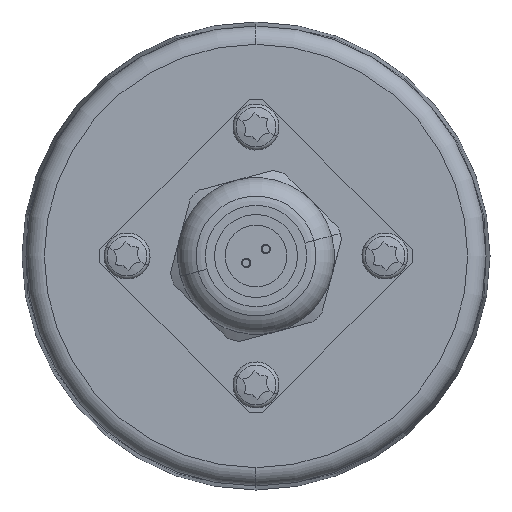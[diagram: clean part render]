
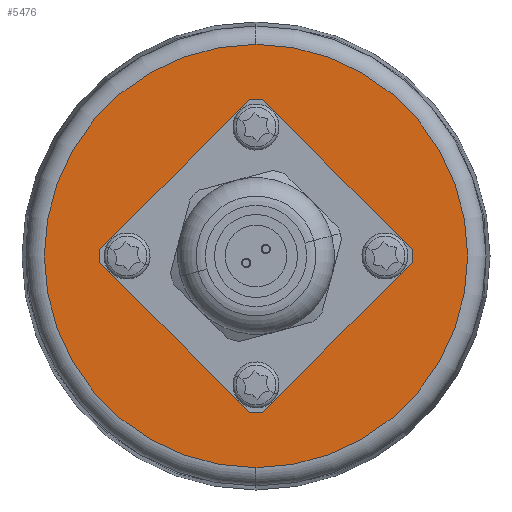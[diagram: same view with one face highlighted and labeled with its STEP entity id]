
A CAD part, left-side view. The second image highlights one B-rep face of the part: STEP entity #5476.
In plain terms, the highlighted planar face has unit normal (-1, 0, 0).
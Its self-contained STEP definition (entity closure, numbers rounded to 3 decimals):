
#26 = CARTESIAN_POINT ( 'NONE',  ( -21., 0., -11.5 ) ) ;
#28 = DIRECTION ( 'NONE',  ( 0., 0., 1. ) ) ;
#29 = DIRECTION ( 'NONE',  ( -1., 0., 0. ) ) ;
#30 = CARTESIAN_POINT ( 'NONE',  ( -21., 0., 0. ) ) ;
#31 = CIRCLE ( 'NONE', #36, 11.5 ) ;
#36 = AXIS2_PLACEMENT_3D ( 'NONE', #30, #29, #28 ) ;
#40 = DIRECTION ( 'NONE',  ( 0., 0., -1. ) ) ;
#41 = DIRECTION ( 'NONE',  ( 1., 0., 0. ) ) ;
#42 = CARTESIAN_POINT ( 'NONE',  ( -21., 14.001, 0. ) ) ;
#43 = AXIS2_PLACEMENT_3D ( 'NONE', #42, #41, #40 ) ;
#44 = CIRCLE ( 'NONE', #43, 1.389 ) ;
#46 = CARTESIAN_POINT ( 'NONE',  ( -21., 0., -22.972 ) ) ;
#47 = DIRECTION ( 'NONE',  ( 0., 0., -1. ) ) ;
#48 = DIRECTION ( 'NONE',  ( -1., 0., 0. ) ) ;
#49 = CARTESIAN_POINT ( 'NONE',  ( -21., 0., 0. ) ) ;
#50 = AXIS2_PLACEMENT_3D ( 'NONE', #49, #48, #47 ) ;
#51 = CIRCLE ( 'NONE', #50, 22.972 ) ;
#56 = CARTESIAN_POINT ( 'NONE',  ( -21., 0., 11.5 ) ) ;
#59 = AXIS2_PLACEMENT_3D ( 'NONE', #60, #64, #63 ) ;
#60 = CARTESIAN_POINT ( 'NONE',  ( -21., 0., 0. ) ) ;
#61 = CIRCLE ( 'NONE', #59, 11.5 ) ;
#63 = DIRECTION ( 'NONE',  ( 0., 0., 1. ) ) ;
#64 = DIRECTION ( 'NONE',  ( -1., 0., 0. ) ) ;
#71 = CARTESIAN_POINT ( 'NONE',  ( -21., 14.001, 1.389 ) ) ;
#72 = CARTESIAN_POINT ( 'NONE',  ( -21., 14.001, -1.389 ) ) ;
#184 = CARTESIAN_POINT ( 'NONE',  ( -21., 0., 22.972 ) ) ;
#2020 = DIRECTION ( 'NONE',  ( 1., 0., 0. ) ) ;
#2021 = CARTESIAN_POINT ( 'NONE',  ( -21., 0., 14.001 ) ) ;
#2022 = AXIS2_PLACEMENT_3D ( 'NONE', #2021, #2020, #2054 ) ;
#2054 = DIRECTION ( 'NONE',  ( 0., 0., -1. ) ) ;
#2081 = DIRECTION ( 'NONE',  ( 0., 0., -1. ) ) ;
#2082 = DIRECTION ( 'NONE',  ( -1., 0., 0. ) ) ;
#2083 = AXIS2_PLACEMENT_3D ( 'NONE', #2086, #2082, #2081 ) ;
#2084 = CIRCLE ( 'NONE', #2083, 22.972 ) ;
#2086 = CARTESIAN_POINT ( 'NONE',  ( -21., 0., 0. ) ) ;
#2099 = CARTESIAN_POINT ( 'NONE',  ( -21., 0., 0. ) ) ;
#2100 = AXIS2_PLACEMENT_3D ( 'NONE', #2099, #2158, #2157 ) ;
#2101 = PLANE ( 'NONE',  #2100 ) ;
#2116 = FACE_BOUND ( 'NONE', #5408, .T. ) ;
#2117 = FACE_OUTER_BOUND ( 'NONE', #5471, .T. ) ;
#2118 = FACE_BOUND ( 'NONE', #5464, .T. ) ;
#2119 = FACE_BOUND ( 'NONE', #5499, .T. ) ;
#2120 = FACE_BOUND ( 'NONE', #5492, .T. ) ;
#2121 = FACE_BOUND ( 'NONE', #5485, .T. ) ;
#2128 = DIRECTION ( 'NONE',  ( 1., 0., 0. ) ) ;
#2129 = AXIS2_PLACEMENT_3D ( 'NONE', #2136, #2128, #2186 ) ;
#2130 = CIRCLE ( 'NONE', #2129, 1.389 ) ;
#2131 = DIRECTION ( 'NONE',  ( 0., 0., -1. ) ) ;
#2132 = DIRECTION ( 'NONE',  ( 1., 0., 0. ) ) ;
#2133 = CARTESIAN_POINT ( 'NONE',  ( -21., 0., -14.001 ) ) ;
#2134 = AXIS2_PLACEMENT_3D ( 'NONE', #2133, #2132, #2131 ) ;
#2135 = CIRCLE ( 'NONE', #2134, 1.389 ) ;
#2136 = CARTESIAN_POINT ( 'NONE',  ( -21., -14.001, 0. ) ) ;
#2137 = CARTESIAN_POINT ( 'NONE',  ( -21., 0., -12.612 ) ) ;
#2138 = CARTESIAN_POINT ( 'NONE',  ( -21., 0., -15.389 ) ) ;
#2139 = DIRECTION ( 'NONE',  ( 0., 0., -1. ) ) ;
#2140 = DIRECTION ( 'NONE',  ( 1., 0., 0. ) ) ;
#2141 = CARTESIAN_POINT ( 'NONE',  ( -21., 0., -14.001 ) ) ;
#2142 = AXIS2_PLACEMENT_3D ( 'NONE', #2141, #2140, #2139 ) ;
#2143 = CIRCLE ( 'NONE', #2142, 1.389 ) ;
#2157 = DIRECTION ( 'NONE',  ( 0., 0., -1. ) ) ;
#2158 = DIRECTION ( 'NONE',  ( 1., 0., 0. ) ) ;
#2178 = DIRECTION ( 'NONE',  ( 0., 0., -1. ) ) ;
#2179 = DIRECTION ( 'NONE',  ( 1., 0., 0. ) ) ;
#2180 = CARTESIAN_POINT ( 'NONE',  ( -21., -14.001, 0. ) ) ;
#2181 = AXIS2_PLACEMENT_3D ( 'NONE', #2180, #2179, #2178 ) ;
#2182 = CIRCLE ( 'NONE', #2181, 1.389 ) ;
#2184 = CARTESIAN_POINT ( 'NONE',  ( -21., -14.001, 1.389 ) ) ;
#2185 = CARTESIAN_POINT ( 'NONE',  ( -21., -14.001, -1.389 ) ) ;
#2186 = DIRECTION ( 'NONE',  ( 0., 0., -1. ) ) ;
#5407 = ORIENTED_EDGE ( 'NONE', *, *, #5418, .T. ) ;
#5408 = EDGE_LOOP ( 'NONE', ( #5409, #5413 ) ) ;
#5409 = ORIENTED_EDGE ( 'NONE', *, *, #5410, .F. ) ;
#5410 = EDGE_CURVE ( 'NONE', #5411, #5412, #61, .T. ) ;
#5411 = VERTEX_POINT ( 'NONE', #56 ) ;
#5412 = VERTEX_POINT ( 'NONE', #26 ) ;
#5413 = ORIENTED_EDGE ( 'NONE', *, *, #5414, .F. ) ;
#5414 = EDGE_CURVE ( 'NONE', #5412, #5411, #31, .T. ) ;
#5418 = EDGE_CURVE ( 'NONE', #5449, #5419, #51, .T. ) ;
#5419 = VERTEX_POINT ( 'NONE', #46 ) ;
#5420 = EDGE_CURVE ( 'NONE', #5421, #5422, #44, .T. ) ;
#5421 = VERTEX_POINT ( 'NONE', #72 ) ;
#5422 = VERTEX_POINT ( 'NONE', #71 ) ;
#5423 = ORIENTED_EDGE ( 'NONE', *, *, #5463, .T. ) ;
#5449 = VERTEX_POINT ( 'NONE', #184 ) ;
#5463 = EDGE_CURVE ( 'NONE', #5422, #5421, #10966, .T. ) ;
#5464 = EDGE_LOOP ( 'NONE', ( #5465, #5469 ) ) ;
#5465 = ORIENTED_EDGE ( 'NONE', *, *, #5466, .T. ) ;
#5466 = EDGE_CURVE ( 'NONE', #5467, #5468, #10969, .T. ) ;
#5467 = VERTEX_POINT ( 'NONE', #10960 ) ;
#5468 = VERTEX_POINT ( 'NONE', #10959 ) ;
#5469 = ORIENTED_EDGE ( 'NONE', *, *, #5470, .T. ) ;
#5470 = EDGE_CURVE ( 'NONE', #5468, #5467, #10963, .T. ) ;
#5471 = EDGE_LOOP ( 'NONE', ( #5472, #5407 ) ) ;
#5472 = ORIENTED_EDGE ( 'NONE', *, *, #5473, .T. ) ;
#5473 = EDGE_CURVE ( 'NONE', #5419, #5449, #2084, .T. ) ;
#5476 = ADVANCED_FACE ( 'NONE', ( #2121, #2120, #2119, #2118, #2117, #2116 ), #2101, .F. ) ;
#5485 = EDGE_LOOP ( 'NONE', ( #5486, #5490 ) ) ;
#5486 = ORIENTED_EDGE ( 'NONE', *, *, #5487, .T. ) ;
#5487 = EDGE_CURVE ( 'NONE', #5488, #5489, #2143, .T. ) ;
#5488 = VERTEX_POINT ( 'NONE', #2138 ) ;
#5489 = VERTEX_POINT ( 'NONE', #2137 ) ;
#5490 = ORIENTED_EDGE ( 'NONE', *, *, #5491, .T. ) ;
#5491 = EDGE_CURVE ( 'NONE', #5489, #5488, #2135, .T. ) ;
#5492 = EDGE_LOOP ( 'NONE', ( #5493, #5497 ) ) ;
#5493 = ORIENTED_EDGE ( 'NONE', *, *, #5494, .T. ) ;
#5494 = EDGE_CURVE ( 'NONE', #5495, #5496, #2130, .T. ) ;
#5495 = VERTEX_POINT ( 'NONE', #2185 ) ;
#5496 = VERTEX_POINT ( 'NONE', #2184 ) ;
#5497 = ORIENTED_EDGE ( 'NONE', *, *, #5498, .T. ) ;
#5498 = EDGE_CURVE ( 'NONE', #5496, #5495, #2182, .T. ) ;
#5499 = EDGE_LOOP ( 'NONE', ( #5500, #5423 ) ) ;
#5500 = ORIENTED_EDGE ( 'NONE', *, *, #5420, .T. ) ;
#10959 = CARTESIAN_POINT ( 'NONE',  ( -21., 0., 15.389 ) ) ;
#10960 = CARTESIAN_POINT ( 'NONE',  ( -21., 0., 12.612 ) ) ;
#10961 = DIRECTION ( 'NONE',  ( 0., 0., -1. ) ) ;
#10962 = DIRECTION ( 'NONE',  ( 1., 0., 0. ) ) ;
#10963 = CIRCLE ( 'NONE', #2022, 1.389 ) ;
#10964 = DIRECTION ( 'NONE',  ( 0., 0., -1. ) ) ;
#10965 = DIRECTION ( 'NONE',  ( 1., 0., 0. ) ) ;
#10966 = CIRCLE ( 'NONE', #10972, 1.389 ) ;
#10967 = CARTESIAN_POINT ( 'NONE',  ( -21., 0., 14.001 ) ) ;
#10968 = AXIS2_PLACEMENT_3D ( 'NONE', #10967, #10962, #10961 ) ;
#10969 = CIRCLE ( 'NONE', #10968, 1.389 ) ;
#10971 = CARTESIAN_POINT ( 'NONE',  ( -21., 14.001, 0. ) ) ;
#10972 = AXIS2_PLACEMENT_3D ( 'NONE', #10971, #10965, #10964 ) ;
